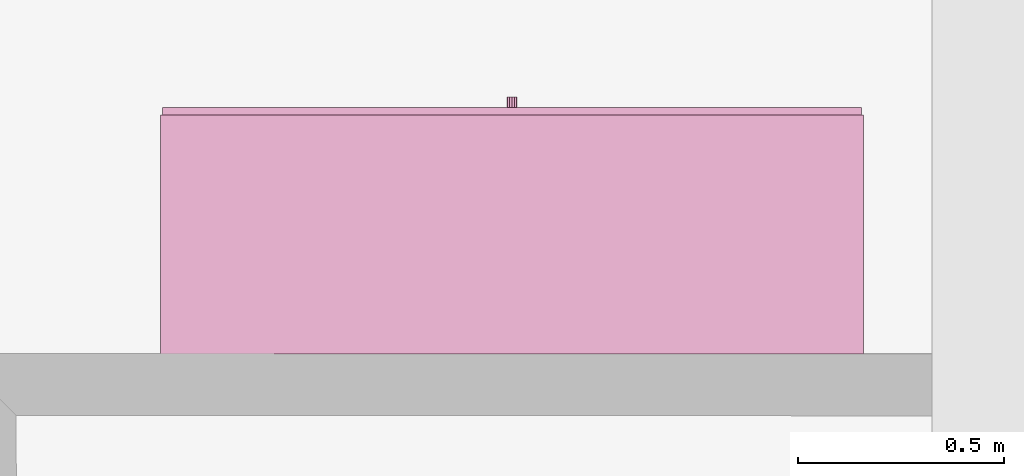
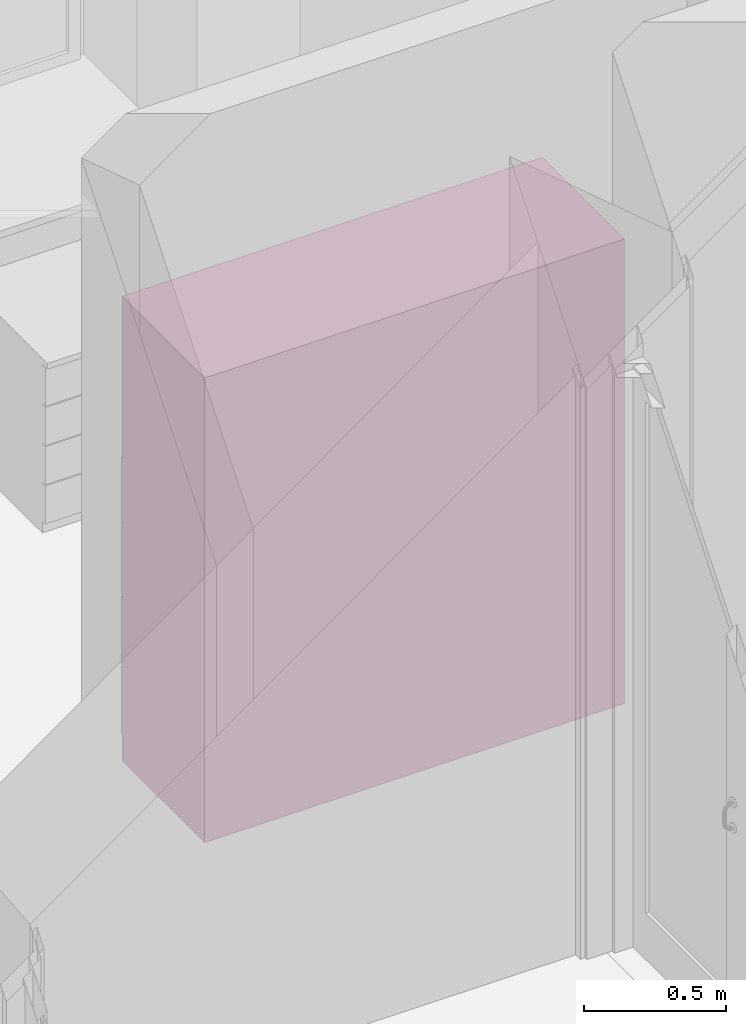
# One storey, part 146 of 194: 1 furnishing.
"""IFC2X3 building model written with IfcOpenShell, lengths in millimetres."""

from ifc_helpers import new_model, entity, si_unit, converted_unit, derived_unit, money_unit, direction, frame, origin_with_axes, place, context, subcontext, project, spatial, faceted_brep, source, transform, mapped, type_object, element, save


model = new_model("IFC2X3")

# Units and contexts
model_context = context("Model", 3, precision=1e-05, world=origin_with_axes(), true_north=direction((0.0, 1.0)))
body_context = subcontext(model_context, "Body", "Model", "MODEL_VIEW")
ifc_project = project(units=[si_unit("LENGTHUNIT", "METRE", prefix="MILLI"), si_unit("AREAUNIT", "SQUARE_METRE"), si_unit("VOLUMEUNIT", "CUBIC_METRE"), converted_unit("PLANEANGLEUNIT", "DEGREE", entity("IfcPlaneAngleMeasure", 0.0174532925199), si_unit("PLANEANGLEUNIT", "RADIAN"), dimensions=[0, 0, 0, 0, 0, 0, 0]), si_unit("SOLIDANGLEUNIT", "STERADIAN"), money_unit("EUR"), converted_unit("TIMEUNIT", "Year", entity("IfcTimeMeasure", 31556926.0), si_unit("TIMEUNIT", "SECOND"), dimensions=[0, 0, 1, 0, 0, 0, 0]), si_unit("MASSUNIT", "GRAM", prefix="KILO"), si_unit("THERMODYNAMICTEMPERATUREUNIT", "DEGREE_CELSIUS"), si_unit("LUMINOUSINTENSITYUNIT", "LUMEN"), si_unit("ENERGYUNIT", "JOULE", prefix="MEGA"), derived_unit("THERMALCONDUCTANCEUNIT", [(si_unit("POWERUNIT", "WATT"), 1), (si_unit("LENGTHUNIT", "METRE"), -1), (si_unit("THERMODYNAMICTEMPERATUREUNIT", "KELVIN"), -1)]), derived_unit("SPECIFICHEATCAPACITYUNIT", [(si_unit("ENERGYUNIT", "JOULE"), 1), (si_unit("MASSUNIT", "GRAM", prefix="KILO"), -1), (si_unit("THERMODYNAMICTEMPERATUREUNIT", "KELVIN"), -1)]), derived_unit("MASSDENSITYUNIT", [(si_unit("MASSUNIT", "GRAM", prefix="KILO"), 1), (si_unit("VOLUMEUNIT", "CUBIC_METRE"), -1)])], contexts=[model_context])

# Site, building, storey
site_placement = place(None, origin_with_axes())
site = spatial("IfcSite", under=ifc_project, at=site_placement, Name="Site", CompositionType="ELEMENT")
building_placement = place(site_placement, origin_with_axes())
building = spatial("IfcBuilding", under=site, at=building_placement, Name="Building", CompositionType="ELEMENT")
storey_placement = place(building_placement, frame((0.0, 0.0, 3000.0), z_axis=(0.0, 0.0, 1.0), x_axis=(1.0, 0.0, 0.0)))
storey = spatial("IfcBuildingStorey", under=building, at=storey_placement, Name="2 KORRUS", CompositionType="ELEMENT", Elevation=3000.0)

# Furnishing
furnishing_element_type = type_object("IfcFurnishingElementType", Name="Model Element 35")
shared_shape = source(origin_with_axes(), body_context, "Body", "Brep", [
    faceted_brep([(1709.22062814, 19.0, 0.0), (0.0, 19.0, 0.0), (0.0, 600.0, 0.0), (1709.22062814, 600.0, 0.0), (1709.22062814, 19.0, 100.0), (0.0, 19.0, 100.0), (0.0, 600.0, 100.0), (1709.22062814, 600.0, 100.0)], [[[0, 1, 2, 3]], [[1, 0, 4, 5]], [[2, 1, 5, 6]], [[3, 2, 6, 7]], [[0, 3, 7, 4]], [[5, 4, 7, 6]]]),
    faceted_brep([(19.0, 600.0, 119.0), (19.0, 581.0, 119.0), (19.0, 581.0, 1981.0), (19.0, 600.0, 1981.0), (1690.22062814, 600.0, 119.0), (1690.22062814, 581.0, 119.0), (1690.22062814, 581.0, 1981.0), (1690.22062814, 600.0, 1981.0)], [[[0, 1, 2, 3]], [[0, 4, 5, 1]], [[1, 5, 6, 2]], [[3, 2, 6, 7]], [[4, 0, 3, 7]], [[5, 4, 7, 6]]]),
    faceted_brep([(1709.22062814, 19.0, 100.0), (1690.22062814, 19.0, 100.0), (1690.22062814, 600.0, 100.0), (1709.22062814, 600.0, 100.0), (1709.22062814, 19.0, 2000.0), (1690.22062814, 19.0, 2000.0), (1690.22062814, 600.0, 2000.0), (1709.22062814, 600.0, 2000.0)], [[[0, 1, 2, 3]], [[1, 0, 4, 5]], [[2, 1, 5, 6]], [[3, 2, 6, 7]], [[0, 3, 7, 4]], [[5, 4, 7, 6]]]),
    faceted_brep([(19.0, 19.0, 100.0), (0.0, 19.0, 100.0), (0.0, 600.0, 100.0), (19.0, 600.0, 100.0), (19.0, 19.0, 2000.0), (0.0, 19.0, 2000.0), (0.0, 600.0, 2000.0), (19.0, 600.0, 2000.0)], [[[0, 1, 2, 3]], [[1, 0, 4, 5]], [[2, 1, 5, 6]], [[3, 2, 6, 7]], [[0, 3, 7, 4]], [[5, 4, 7, 6]]]),
    faceted_brep([(1690.22062814, 19.0, 100.0), (19.0, 19.0, 100.0), (19.0, 600.0, 100.0), (1690.22062814, 600.0, 100.0), (1690.22062814, 19.0, 119.0), (19.0, 19.0, 119.0), (19.0, 600.0, 119.0), (1690.22062814, 600.0, 119.0)], [[[0, 1, 2, 3]], [[1, 0, 4, 5]], [[2, 1, 5, 6]], [[3, 2, 6, 7]], [[0, 3, 7, 4]], [[5, 4, 7, 6]]]),
    faceted_brep([(1690.22062814, 19.0, 1981.0), (19.0, 19.0, 1981.0), (19.0, 600.0, 1981.0), (1690.22062814, 600.0, 1981.0), (1690.22062814, 19.0, 2000.0), (19.0, 19.0, 2000.0), (19.0, 600.0, 2000.0), (1690.22062814, 600.0, 2000.0)], [[[0, 1, 2, 3]], [[1, 0, 4, 5]], [[2, 1, 5, 6]], [[3, 2, 6, 7]], [[0, 3, 7, 4]], [[5, 4, 7, 6]]]),
    faceted_brep([(5.0, 19.0, 105.0), (1704.22062814, 19.0, 105.0), (1704.22062814, 0.0, 105.0), (5.0, 0.0, 105.0), (5.0, 19.0, 395.0), (1704.22062814, 19.0, 395.0), (1704.22062814, 0.0, 395.0), (5.0, 0.0, 395.0)], [[[0, 1, 2, 3]], [[0, 4, 5, 1]], [[1, 5, 6, 2]], [[3, 2, 6, 7]], [[4, 0, 3, 7]], [[5, 4, 7, 6]]]),
    faceted_brep([(865.002618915, 0.0, 244.0), (860.610314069, 0.0, 239.607695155), (854.610314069, 0.0, 238.0), (848.610314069, 0.0, 239.607695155), (844.218009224, 0.0, 244.0), (842.610314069, 0.0, 250.0), (844.218009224, 0.0, 256.0), (848.610314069, 0.0, 260.392304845), (854.610314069, 0.0, 262.0), (860.610314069, 0.0, 260.392304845), (865.002618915, 0.0, 256.0), (866.610314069, 0.0, 250.0), (865.002618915, -25.0, 244.0), (860.610314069, -25.0, 239.607695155), (854.610314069, -25.0, 238.0), (848.610314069, -25.0, 239.607695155), (844.218009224, -25.0, 244.0), (842.610314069, -25.0, 250.0), (844.218009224, -25.0, 256.0), (848.610314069, -25.0, 260.392304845), (854.610314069, -25.0, 262.0), (860.610314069, -25.0, 260.392304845), (865.002618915, -25.0, 256.0), (866.610314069, -25.0, 250.0)], [[[0, 1, 2, 3, 4, 5, 6, 7, 8, 9, 10, 11]], [[1, 0, 12, 13]], [[2, 1, 13, 14]], [[3, 2, 14, 15]], [[4, 3, 15, 16]], [[5, 4, 16, 17]], [[6, 5, 17, 18]], [[7, 6, 18, 19]], [[8, 7, 19, 20]], [[9, 8, 20, 21]], [[10, 9, 21, 22]], [[11, 10, 22, 23]], [[0, 11, 23, 12]], [[12, 23, 22, 21, 20, 19, 18, 17, 16, 15, 14, 13]]]),
    faceted_brep([(5.0, 19.0, 405.0), (1704.22062814, 19.0, 405.0), (1704.22062814, 0.0, 405.0), (5.0, 0.0, 405.0), (5.0, 19.0, 695.0), (1704.22062814, 19.0, 695.0), (1704.22062814, 0.0, 695.0), (5.0, 0.0, 695.0)], [[[0, 1, 2, 3]], [[0, 4, 5, 1]], [[1, 5, 6, 2]], [[3, 2, 6, 7]], [[4, 0, 3, 7]], [[5, 4, 7, 6]]]),
    faceted_brep([(865.002618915, 0.0, 544.0), (860.610314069, 0.0, 539.607695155), (854.610314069, 0.0, 538.0), (848.610314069, 0.0, 539.607695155), (844.218009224, 0.0, 544.0), (842.610314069, 0.0, 550.0), (844.218009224, 0.0, 556.0), (848.610314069, 0.0, 560.392304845), (854.610314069, 0.0, 562.0), (860.610314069, 0.0, 560.392304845), (865.002618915, 0.0, 556.0), (866.610314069, 0.0, 550.0), (865.002618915, -25.0, 544.0), (860.610314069, -25.0, 539.607695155), (854.610314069, -25.0, 538.0), (848.610314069, -25.0, 539.607695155), (844.218009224, -25.0, 544.0), (842.610314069, -25.0, 550.0), (844.218009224, -25.0, 556.0), (848.610314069, -25.0, 560.392304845), (854.610314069, -25.0, 562.0), (860.610314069, -25.0, 560.392304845), (865.002618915, -25.0, 556.0), (866.610314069, -25.0, 550.0)], [[[0, 1, 2, 3, 4, 5, 6, 7, 8, 9, 10, 11]], [[1, 0, 12, 13]], [[2, 1, 13, 14]], [[3, 2, 14, 15]], [[4, 3, 15, 16]], [[5, 4, 16, 17]], [[6, 5, 17, 18]], [[7, 6, 18, 19]], [[8, 7, 19, 20]], [[9, 8, 20, 21]], [[10, 9, 21, 22]], [[11, 10, 22, 23]], [[0, 11, 23, 12]], [[12, 23, 22, 21, 20, 19, 18, 17, 16, 15, 14, 13]]]),
    faceted_brep([(5.0, 19.0, 705.0), (1704.22062814, 19.0, 705.0), (1704.22062814, 0.0, 705.0), (5.0, 0.0, 705.0), (5.0, 19.0, 995.0), (1704.22062814, 19.0, 995.0), (1704.22062814, 0.0, 995.0), (5.0, 0.0, 995.0)], [[[0, 1, 2, 3]], [[0, 4, 5, 1]], [[1, 5, 6, 2]], [[3, 2, 6, 7]], [[4, 0, 3, 7]], [[5, 4, 7, 6]]]),
    faceted_brep([(865.002618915, 0.0, 844.0), (860.610314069, 0.0, 839.607695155), (854.610314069, 0.0, 838.0), (848.610314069, 0.0, 839.607695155), (844.218009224, 0.0, 844.0), (842.610314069, 0.0, 850.0), (844.218009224, 0.0, 856.0), (848.610314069, 0.0, 860.392304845), (854.610314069, 0.0, 862.0), (860.610314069, 0.0, 860.392304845), (865.002618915, 0.0, 856.0), (866.610314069, 0.0, 850.0), (865.002618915, -25.0, 844.0), (860.610314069, -25.0, 839.607695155), (854.610314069, -25.0, 838.0), (848.610314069, -25.0, 839.607695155), (844.218009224, -25.0, 844.0), (842.610314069, -25.0, 850.0), (844.218009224, -25.0, 856.0), (848.610314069, -25.0, 860.392304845), (854.610314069, -25.0, 862.0), (860.610314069, -25.0, 860.392304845), (865.002618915, -25.0, 856.0), (866.610314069, -25.0, 850.0)], [[[0, 1, 2, 3, 4, 5, 6, 7, 8, 9, 10, 11]], [[1, 0, 12, 13]], [[2, 1, 13, 14]], [[3, 2, 14, 15]], [[4, 3, 15, 16]], [[5, 4, 16, 17]], [[6, 5, 17, 18]], [[7, 6, 18, 19]], [[8, 7, 19, 20]], [[9, 8, 20, 21]], [[10, 9, 21, 22]], [[11, 10, 22, 23]], [[0, 11, 23, 12]], [[12, 23, 22, 21, 20, 19, 18, 17, 16, 15, 14, 13]]]),
    faceted_brep([(5.0, 19.0, 1005.0), (1704.22062814, 19.0, 1005.0), (1704.22062814, 0.0, 1005.0), (5.0, 0.0, 1005.0), (5.0, 19.0, 1295.0), (1704.22062814, 19.0, 1295.0), (1704.22062814, 0.0, 1295.0), (5.0, 0.0, 1295.0)], [[[0, 1, 2, 3]], [[0, 4, 5, 1]], [[1, 5, 6, 2]], [[3, 2, 6, 7]], [[4, 0, 3, 7]], [[5, 4, 7, 6]]]),
    faceted_brep([(865.002618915, 0.0, 1144.0), (860.610314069, 0.0, 1139.60769515), (854.610314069, 0.0, 1138.0), (848.610314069, 0.0, 1139.60769515), (844.218009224, 0.0, 1144.0), (842.610314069, 0.0, 1150.0), (844.218009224, 0.0, 1156.0), (848.610314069, 0.0, 1160.39230485), (854.610314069, 0.0, 1162.0), (860.610314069, 0.0, 1160.39230485), (865.002618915, 0.0, 1156.0), (866.610314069, 0.0, 1150.0), (865.002618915, -25.0, 1144.0), (860.610314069, -25.0, 1139.60769515), (854.610314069, -25.0, 1138.0), (848.610314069, -25.0, 1139.60769515), (844.218009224, -25.0, 1144.0), (842.610314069, -25.0, 1150.0), (844.218009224, -25.0, 1156.0), (848.610314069, -25.0, 1160.39230485), (854.610314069, -25.0, 1162.0), (860.610314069, -25.0, 1160.39230485), (865.002618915, -25.0, 1156.0), (866.610314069, -25.0, 1150.0)], [[[0, 1, 2, 3, 4, 5, 6, 7, 8, 9, 10, 11]], [[1, 0, 12, 13]], [[2, 1, 13, 14]], [[3, 2, 14, 15]], [[4, 3, 15, 16]], [[5, 4, 16, 17]], [[6, 5, 17, 18]], [[7, 6, 18, 19]], [[8, 7, 19, 20]], [[9, 8, 20, 21]], [[10, 9, 21, 22]], [[11, 10, 22, 23]], [[0, 11, 23, 12]], [[12, 23, 22, 21, 20, 19, 18, 17, 16, 15, 14, 13]]]),
    faceted_brep([(19.0, 19.0, 390.5), (1690.22062814, 19.0, 390.5), (1690.22062814, 19.0, 409.5), (19.0, 19.0, 409.5), (19.0, 581.0, 390.5), (1690.22062814, 581.0, 390.5), (1690.22062814, 581.0, 409.5), (19.0, 581.0, 409.5)], [[[0, 1, 2, 3]], [[0, 4, 5, 1]], [[1, 5, 6, 2]], [[3, 2, 6, 7]], [[4, 0, 3, 7]], [[5, 4, 7, 6]]]),
    faceted_brep([(19.0, 19.0, 690.5), (1690.22062814, 19.0, 690.5), (1690.22062814, 19.0, 709.5), (19.0, 19.0, 709.5), (19.0, 581.0, 690.5), (1690.22062814, 581.0, 690.5), (1690.22062814, 581.0, 709.5), (19.0, 581.0, 709.5)], [[[0, 1, 2, 3]], [[0, 4, 5, 1]], [[1, 5, 6, 2]], [[3, 2, 6, 7]], [[4, 0, 3, 7]], [[5, 4, 7, 6]]]),
    faceted_brep([(19.0, 19.0, 990.5), (1690.22062814, 19.0, 990.5), (1690.22062814, 19.0, 1009.5), (19.0, 19.0, 1009.5), (19.0, 581.0, 990.5), (1690.22062814, 581.0, 990.5), (1690.22062814, 581.0, 1009.5), (19.0, 581.0, 1009.5)], [[[0, 1, 2, 3]], [[0, 4, 5, 1]], [[1, 5, 6, 2]], [[3, 2, 6, 7]], [[4, 0, 3, 7]], [[5, 4, 7, 6]]]),
    faceted_brep([(19.0, 19.0, 1290.5), (1690.22062814, 19.0, 1290.5), (1690.22062814, 19.0, 1309.5), (19.0, 19.0, 1309.5), (19.0, 581.0, 1290.5), (1690.22062814, 581.0, 1290.5), (1690.22062814, 581.0, 1309.5), (19.0, 581.0, 1309.5)], [[[0, 1, 2, 3]], [[0, 4, 5, 1]], [[1, 5, 6, 2]], [[3, 2, 6, 7]], [[4, 0, 3, 7]], [[5, 4, 7, 6]]]),
    faceted_brep([(1690.22062814, 19.0, 1463.125), (19.0, 19.0, 1463.125), (19.0, 581.0, 1463.125), (1690.22062814, 581.0, 1463.125), (1690.22062814, 19.0, 1482.125), (19.0, 19.0, 1482.125), (19.0, 581.0, 1482.125), (1690.22062814, 581.0, 1482.125)], [[[0, 1, 2, 3]], [[1, 0, 4, 5]], [[2, 1, 5, 6]], [[3, 2, 6, 7]], [[0, 3, 7, 4]], [[5, 4, 7, 6]]]),
    faceted_brep([(1690.22062814, 19.0, 1635.75), (19.0, 19.0, 1635.75), (19.0, 581.0, 1635.75), (1690.22062814, 581.0, 1635.75), (1690.22062814, 19.0, 1654.75), (19.0, 19.0, 1654.75), (19.0, 581.0, 1654.75), (1690.22062814, 581.0, 1654.75)], [[[0, 1, 2, 3]], [[1, 0, 4, 5]], [[2, 1, 5, 6]], [[3, 2, 6, 7]], [[0, 3, 7, 4]], [[5, 4, 7, 6]]]),
    faceted_brep([(1690.22062814, 19.0, 1808.375), (19.0, 19.0, 1808.375), (19.0, 581.0, 1808.375), (1690.22062814, 581.0, 1808.375), (1690.22062814, 19.0, 1827.375), (19.0, 19.0, 1827.375), (19.0, 581.0, 1827.375), (1690.22062814, 581.0, 1827.375)], [[[0, 1, 2, 3]], [[1, 0, 4, 5]], [[2, 1, 5, 6]], [[3, 2, 6, 7]], [[0, 3, 7, 4]], [[5, 4, 7, 6]]]),
])
furnishing_placement = place(storey_placement, frame((43025.5953584, 69165.6002003, 0.0), z_axis=(0.0, 0.0, 1.0), x_axis=(-1.0, 0.0, 0.0)))
element("IfcFurnishingElement", 1, at=furnishing_placement, inside=storey, type_object=furnishing_element_type, Name="FU - 001", context=body_context, shape_type="MappedRepresentation", body=[
    mapped(shared_shape, transform((0.0, 0.0, 0.0))),
])

save(model, "model.ifc")
